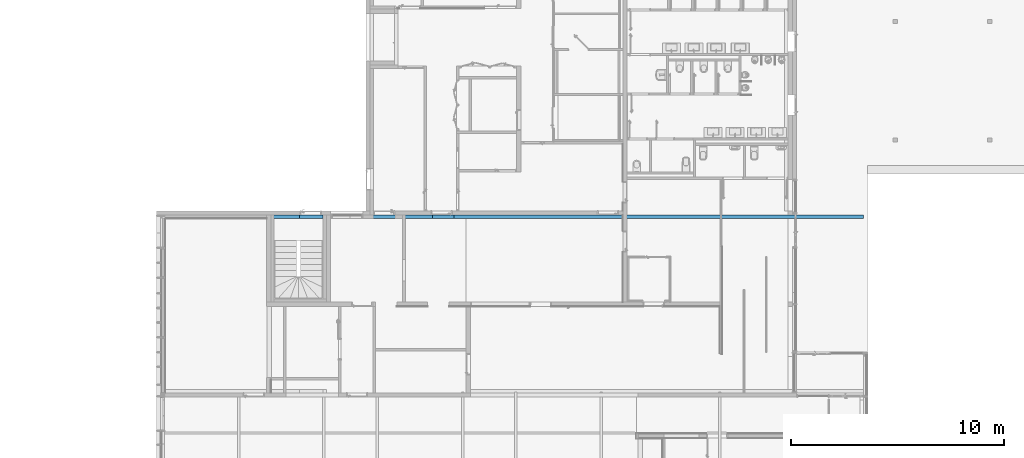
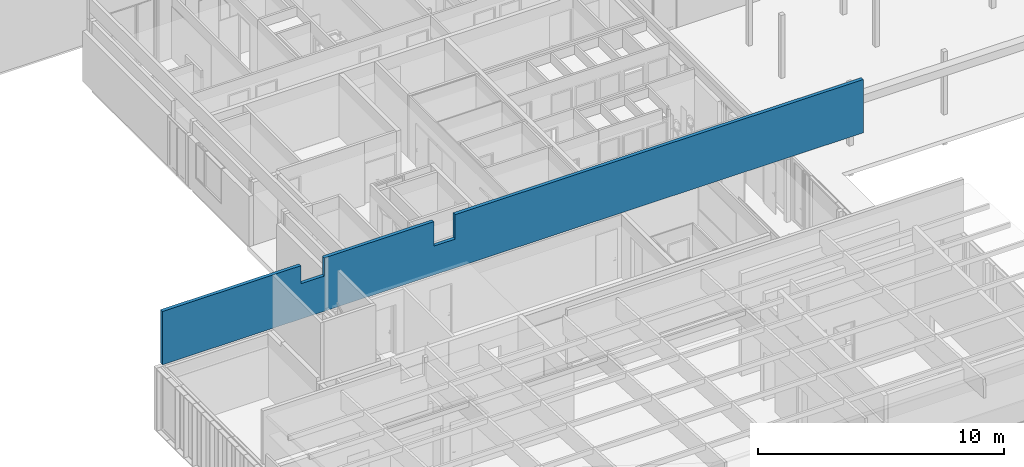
# One storey, part 88 of 240: 1 wall, 2 openings.
"""IFC2X3 building model written with IfcOpenShell, lengths in centimetres."""

from ifc_helpers import new_model, entity, si_unit, converted_unit, derived_unit, direction, frame, frame_2d, origin, place, context, subcontext, project, spatial, rectangle, extrude, material, layer, layer_set, layer_usage, type_object, element, save


model = new_model("IFC2X3")

# Units and contexts
model_context = context("Model", 3, precision=0.001, world=origin(), true_north=direction((6.12303176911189e-17, 1.0)))
body_context = subcontext(model_context, "Body", "Model", "MODEL_VIEW")
ifc_project = project(units=[si_unit("LENGTHUNIT", "METRE", prefix="CENTI"), si_unit("AREAUNIT", "SQUARE_METRE"), si_unit("VOLUMEUNIT", "CUBIC_METRE"), converted_unit("PLANEANGLEUNIT", "DEGREE", entity("IfcRatioMeasure", 0.0174532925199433), si_unit("PLANEANGLEUNIT", "RADIAN"), dimensions=[0, 0, 0, 0, 0, 0, 0]), si_unit("MASSUNIT", "GRAM", prefix="KILO"), derived_unit("MASSDENSITYUNIT", [(si_unit("MASSUNIT", "GRAM", prefix="KILO"), 1), (si_unit("LENGTHUNIT", "METRE"), -3)]), si_unit("TIMEUNIT", "SECOND"), si_unit("FREQUENCYUNIT", "HERTZ"), si_unit("THERMODYNAMICTEMPERATUREUNIT", "DEGREE_CELSIUS"), derived_unit("THERMALTRANSMITTANCEUNIT", [(si_unit("MASSUNIT", "GRAM", prefix="KILO"), 1), (si_unit("THERMODYNAMICTEMPERATUREUNIT", "KELVIN"), -1), (si_unit("TIMEUNIT", "SECOND"), -3)]), derived_unit("VOLUMETRICFLOWRATEUNIT", [(si_unit("LENGTHUNIT", "METRE"), 3), (si_unit("TIMEUNIT", "SECOND"), -1)]), si_unit("ELECTRICCURRENTUNIT", "AMPERE"), si_unit("ELECTRICVOLTAGEUNIT", "VOLT"), si_unit("POWERUNIT", "WATT"), si_unit("FORCEUNIT", "NEWTON", prefix="KILO"), si_unit("ILLUMINANCEUNIT", "LUX"), si_unit("LUMINOUSFLUXUNIT", "LUMEN"), si_unit("LUMINOUSINTENSITYUNIT", "CANDELA"), derived_unit("USERDEFINED", [(si_unit("MASSUNIT", "GRAM", prefix="KILO"), -1), (si_unit("LENGTHUNIT", "METRE"), -2), (si_unit("TIMEUNIT", "SECOND"), 3), (si_unit("LUMINOUSFLUXUNIT", "LUMEN"), 1)]), derived_unit("LINEARVELOCITYUNIT", [(si_unit("LENGTHUNIT", "METRE"), 1), (si_unit("TIMEUNIT", "SECOND"), -1)]), si_unit("PRESSUREUNIT", "PASCAL"), derived_unit("USERDEFINED", [(si_unit("LENGTHUNIT", "METRE"), -2), (si_unit("MASSUNIT", "GRAM", prefix="KILO"), 1), (si_unit("TIMEUNIT", "SECOND"), -2)])], contexts=[model_context])

# Site, building, storey
site_placement = place(None, frame((-2781.94577612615, 7442.24238424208, 0.0)))
site = spatial("IfcSite", under=ifc_project, at=site_placement, Name="Default", CompositionType="ELEMENT")
building_placement = place(site_placement, origin())
building = spatial("IfcBuilding", under=site, at=building_placement, CompositionType="ELEMENT")
storey_placement = place(building_placement, origin())
storey = spatial("IfcBuildingStorey", under=building, at=storey_placement, Name="N00 - COO", CompositionType="ELEMENT", Elevation=0.0)

# Wall, openings
ifc_material = material(Name="00 - Isolant")
ifc_layer = layer(ifc_material, 16.0)
ifc_layer_set = layer_set([ifc_layer], Name="Mur de base:04 - retour isolation acrotère - ITE 16cm")
ifc_layer_usage = layer_usage(ifc_layer_set, "AXIS2", "NEGATIVE", 8.0)
wall_type = type_object("IfcWallType", Name="Mur de base:04 - retour isolation acrotère - ITE 16cm", PredefinedType="STANDARD", material=ifc_layer_set)
wall_placement = place(storey_placement, frame((-8568.98738089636, -3380.52180651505, 333.862834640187), z_axis=(0.0, 0.0, 1.0), x_axis=(-1.0, 0.0, 0.0)))
wall = element("IfcWallStandardCase", 1, at=wall_placement, inside=storey, type_object=wall_type, material=ifc_layer_usage, Name="Mur de base:04 - retour isolation acrotère - ITE 16cm", ObjectType="Mur de base:04 - retour isolation acrotère - ITE 16cm", context=body_context, shape_type="SweptSolid", body=[
    extrude(rectangle(XDim=3295.36319372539, YDim=15.9999999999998, at=frame_2d((1647.6815968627, 6.17284001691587e-14), x_axis=(-1.0, 0.0))), origin(), (0.0, 0.0, 1.0), 265.137165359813),
])
opening_1_placement = place(wall_placement, origin())
element("IfcOpeningElement", 2, at=opening_1_placement, cuts=wall, Name="Mur de base:04 - retour isolation acrotère - ITE 16cm:4805", ObjectType="Opening", context=body_context, shape_type="SweptSolid", body=[
    extrude(rectangle(XDim=89.9999999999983, YDim=110.000000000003, at=frame_2d((0.0, -5.32907051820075e-14), x_axis=(0.0, 1.0))), frame((2589.89542707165, 8.0, 220.137165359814), z_axis=(0.0, -1.0, 0.0), x_axis=(-1.0, 0.0, 0.0)), (0.0, 0.0, 1.0), 16.0),
])
opening_2_placement = place(wall_placement, origin())
element("IfcOpeningElement", 3, at=opening_2_placement, cuts=wall, Name="Mur de base:04 - retour isolation acrotère - ITE 16cm:4805", ObjectType="Opening", context=body_context, shape_type="SweptSolid", body=[
    extrude(rectangle(XDim=121.78, YDim=99.9999999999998, at=frame_2d((-8.66862137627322e-13, 0.0), x_axis=(0.0, 1.0))), frame((1969.33735720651, 8.0, 204.247165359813), z_axis=(0.0, -1.0, 0.0), x_axis=(-1.0, 0.0, 0.0)), (0.0, 0.0, 1.0), 16.0),
])

save(model, "model.ifc")
